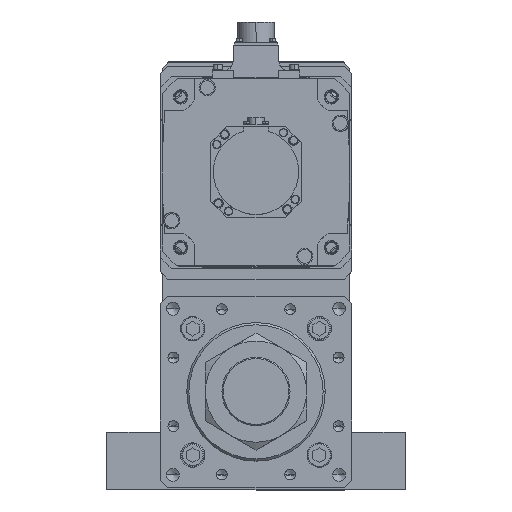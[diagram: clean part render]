
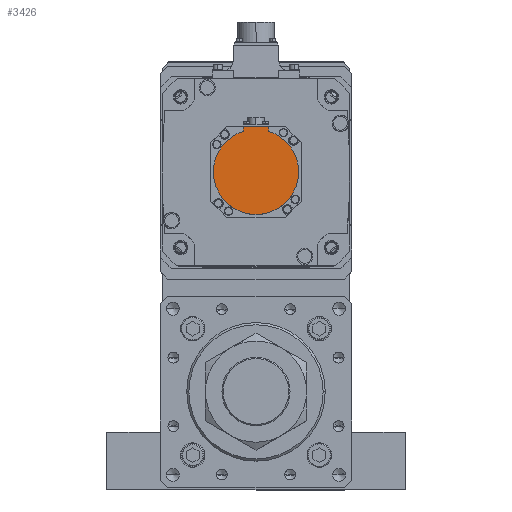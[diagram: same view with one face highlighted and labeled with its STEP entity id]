
A CAD part, top view. The second image highlights one B-rep face of the part: STEP entity #3426.
In plain terms, the highlighted planar face has unit normal (0, 0, 1) as drawn and (0, 0, -1) by its records, which use the part's own axes.
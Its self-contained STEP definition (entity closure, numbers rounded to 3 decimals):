
#1271 = ORIENTED_EDGE ( 'NONE', *, *, #36345, .T. ) ;
#1487 = CARTESIAN_POINT ( 'NONE',  ( -12., -40.329, -178.5 ) ) ;
#1671 = DIRECTION ( 'NONE',  ( 0., 1., 0. ) ) ;
#1801 = ORIENTED_EDGE ( 'NONE', *, *, #33184, .F. ) ;
#3426 = ADVANCED_FACE ( 'NONE', ( #41106 ), #11777, .F. ) ;
#3778 = CARTESIAN_POINT ( 'NONE',  ( 0., -1.249, -178.5 ) ) ;
#4442 = VERTEX_POINT ( 'NONE', #29514 ) ;
#10518 = VERTEX_POINT ( 'NONE', #28469 ) ;
#10937 = VERTEX_POINT ( 'NONE', #49897 ) ;
#10942 = DIRECTION ( 'NONE',  ( 0., 0., 1. ) ) ;
#11777 = PLANE ( 'NONE',  #37946 ) ;
#12517 = VERTEX_POINT ( 'NONE', #48133 ) ;
#14594 = ORIENTED_EDGE ( 'NONE', *, *, #35435, .F. ) ;
#14960 = DIRECTION ( 'NONE',  ( 0., 0., 1. ) ) ;
#15150 = DIRECTION ( 'NONE',  ( 1., 0., 0. ) ) ;
#18093 = CARTESIAN_POINT ( 'NONE',  ( 0., -42.5, -178.5 ) ) ;
#18749 = DIRECTION ( 'NONE',  ( 1., 0., 0. ) ) ;
#19263 = DIRECTION ( 'NONE',  ( 1., 0., 0. ) ) ;
#20080 = VECTOR ( 'NONE', #51394, 1000. ) ;
#20570 = LINE ( 'NONE', #24233, #41291 ) ;
#23072 = CARTESIAN_POINT ( 'NONE',  ( 0., 0., -178.5 ) ) ;
#23477 = EDGE_CURVE ( 'NONE', #50274, #10937, #23936, .T. ) ;
#23870 = DIRECTION ( 'NONE',  ( 0., 1., 0. ) ) ;
#23936 = CIRCLE ( 'NONE', #40870, 40. ) ;
#24233 = CARTESIAN_POINT ( 'NONE',  ( 12., -1.249, -178.5 ) ) ;
#24503 = ORIENTED_EDGE ( 'NONE', *, *, #30044, .T. ) ;
#26659 = CIRCLE ( 'NONE', #32331, 40. ) ;
#27836 = ORIENTED_EDGE ( 'NONE', *, *, #23477, .F. ) ;
#28469 = CARTESIAN_POINT ( 'NONE',  ( 12., -38.158, -178.5 ) ) ;
#29514 = CARTESIAN_POINT ( 'NONE',  ( -12., -42.5, -178.5 ) ) ;
#30044 = EDGE_CURVE ( 'NONE', #12517, #4442, #40817, .T. ) ;
#31389 = DIRECTION ( 'NONE',  ( 0., 0., 1. ) ) ;
#32331 = AXIS2_PLACEMENT_3D ( 'NONE', #51886, #14960, #18749 ) ;
#32752 = DIRECTION ( 'NONE',  ( 0., 0., 1. ) ) ;
#33184 = EDGE_CURVE ( 'NONE', #10937, #35617, #26659, .T. ) ;
#35351 = CARTESIAN_POINT ( 'NONE',  ( 0., 0., -178.5 ) ) ;
#35435 = EDGE_CURVE ( 'NONE', #10518, #50274, #39383, .T. ) ;
#35617 = VERTEX_POINT ( 'NONE', #36616 ) ;
#35823 = EDGE_LOOP ( 'NONE', ( #1271, #1801, #27836, #14594, #44136, #24503 ) ) ;
#36345 = EDGE_CURVE ( 'NONE', #4442, #35617, #37384, .T. ) ;
#36616 = CARTESIAN_POINT ( 'NONE',  ( -12., -38.158, -178.5 ) ) ;
#37384 = LINE ( 'NONE', #1487, #52295 ) ;
#37946 = AXIS2_PLACEMENT_3D ( 'NONE', #3778, #32752, #45074 ) ;
#39383 = CIRCLE ( 'NONE', #43503, 40. ) ;
#40817 = LINE ( 'NONE', #18093, #20080 ) ;
#40870 = AXIS2_PLACEMENT_3D ( 'NONE', #23072, #31389, #15150 ) ;
#41106 = FACE_OUTER_BOUND ( 'NONE', #35823, .T. ) ;
#41291 = VECTOR ( 'NONE', #23870, 1000. ) ;
#43503 = AXIS2_PLACEMENT_3D ( 'NONE', #35351, #10942, #19263 ) ;
#44136 = ORIENTED_EDGE ( 'NONE', *, *, #50316, .F. ) ;
#45074 = DIRECTION ( 'NONE',  ( 1., 0., 0. ) ) ;
#48133 = CARTESIAN_POINT ( 'NONE',  ( 12., -42.5, -178.5 ) ) ;
#48724 = CARTESIAN_POINT ( 'NONE',  ( 40., 0., -178.5 ) ) ;
#49897 = CARTESIAN_POINT ( 'NONE',  ( -40., 0., -178.5 ) ) ;
#50274 = VERTEX_POINT ( 'NONE', #48724 ) ;
#50316 = EDGE_CURVE ( 'NONE', #12517, #10518, #20570, .T. ) ;
#51394 = DIRECTION ( 'NONE',  ( -1., 0., 0. ) ) ;
#51886 = CARTESIAN_POINT ( 'NONE',  ( 0., 0., -178.5 ) ) ;
#52295 = VECTOR ( 'NONE', #1671, 1000. ) ;
